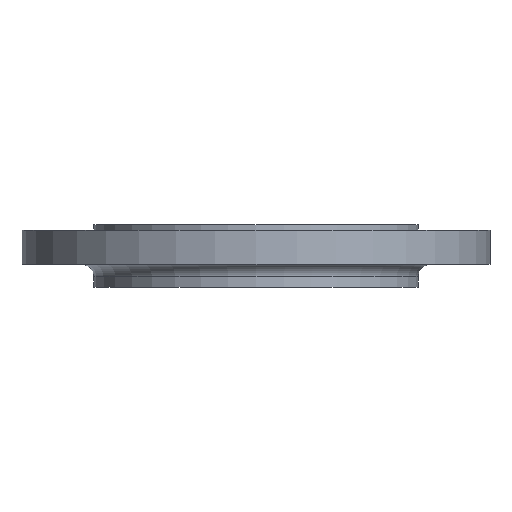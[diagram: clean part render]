
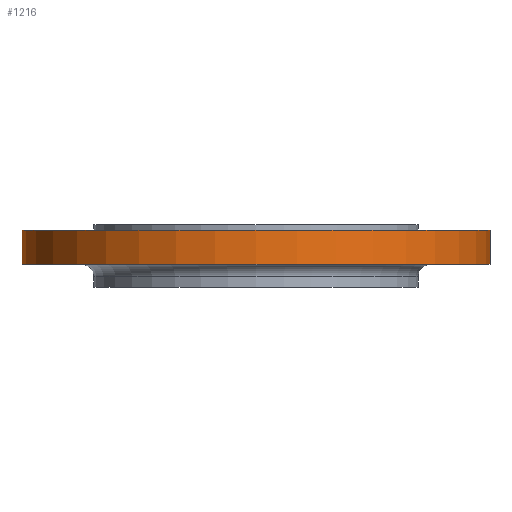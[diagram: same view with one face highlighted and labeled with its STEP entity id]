
A CAD part, front view. The second image highlights one B-rep face of the part: STEP entity #1216.
In plain terms, the highlighted cylindrical face has radius 225 mm (diameter 450 mm), a partial arc.
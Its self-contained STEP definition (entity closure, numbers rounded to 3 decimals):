
#31 = DIRECTION ( 'NONE',  ( 1., 0., 0. ) ) ;
#45 = CARTESIAN_POINT ( 'NONE',  ( 225., 0., -38. ) ) ;
#197 = VERTEX_POINT ( 'NONE', #275 ) ;
#215 = CIRCLE ( 'NONE', #220, 225. ) ;
#220 = AXIS2_PLACEMENT_3D ( 'NONE', #1032, #490, #31 ) ;
#248 = EDGE_CURVE ( 'NONE', #197, #321, #972, .T. ) ;
#254 = EDGE_LOOP ( 'NONE', ( #1208, #1020, #587, #1087 ) ) ;
#275 = CARTESIAN_POINT ( 'NONE',  ( -225., 0., -38. ) ) ;
#287 = EDGE_CURVE ( 'NONE', #678, #321, #599, .T. ) ;
#303 = LINE ( 'NONE', #768, #1162 ) ;
#321 = VERTEX_POINT ( 'NONE', #919 ) ;
#370 = CARTESIAN_POINT ( 'NONE',  ( 0., 0., -115. ) ) ;
#417 = DIRECTION ( 'NONE',  ( 0., 0., 1. ) ) ;
#448 = VECTOR ( 'NONE', #417, 1000. ) ;
#490 = DIRECTION ( 'NONE',  ( 0., 0., 1. ) ) ;
#542 = DIRECTION ( 'NONE',  ( 0., 0., -1. ) ) ;
#567 = EDGE_CURVE ( 'NONE', #197, #575, #215, .T. ) ;
#575 = VERTEX_POINT ( 'NONE', #45 ) ;
#587 = ORIENTED_EDGE ( 'NONE', *, *, #1189, .T. ) ;
#599 = CIRCLE ( 'NONE', #620, 225. ) ;
#620 = AXIS2_PLACEMENT_3D ( 'NONE', #806, #542, #942 ) ;
#671 = CARTESIAN_POINT ( 'NONE',  ( -225., 0., -115. ) ) ;
#678 = VERTEX_POINT ( 'NONE', #1341 ) ;
#768 = CARTESIAN_POINT ( 'NONE',  ( 225., 0., -115. ) ) ;
#806 = CARTESIAN_POINT ( 'NONE',  ( 0., 0., -5. ) ) ;
#837 = DIRECTION ( 'NONE',  ( 1., 0., 0. ) ) ;
#919 = CARTESIAN_POINT ( 'NONE',  ( -225., 0., -5. ) ) ;
#937 = CYLINDRICAL_SURFACE ( 'NONE', #1206, 225. ) ;
#942 = DIRECTION ( 'NONE',  ( -1., 0., 0. ) ) ;
#972 = LINE ( 'NONE', #671, #448 ) ;
#977 = DIRECTION ( 'NONE',  ( 0., 0., 1. ) ) ;
#1020 = ORIENTED_EDGE ( 'NONE', *, *, #567, .T. ) ;
#1032 = CARTESIAN_POINT ( 'NONE',  ( 0., 0., -38. ) ) ;
#1087 = ORIENTED_EDGE ( 'NONE', *, *, #287, .T. ) ;
#1162 = VECTOR ( 'NONE', #977, 1000. ) ;
#1189 = EDGE_CURVE ( 'NONE', #575, #678, #303, .T. ) ;
#1206 = AXIS2_PLACEMENT_3D ( 'NONE', #370, #1269, #837 ) ;
#1208 = ORIENTED_EDGE ( 'NONE', *, *, #248, .F. ) ;
#1216 = ADVANCED_FACE ( 'NONE', ( #1345 ), #937, .T. ) ;
#1269 = DIRECTION ( 'NONE',  ( 0., 0., 1. ) ) ;
#1341 = CARTESIAN_POINT ( 'NONE',  ( 225., 0., -5. ) ) ;
#1345 = FACE_OUTER_BOUND ( 'NONE', #254, .T. ) ;
